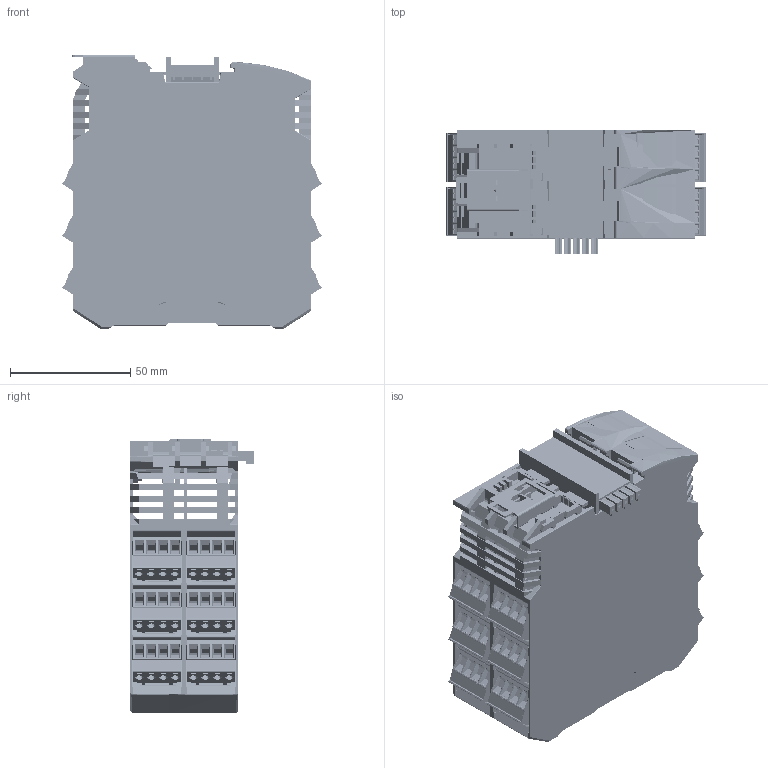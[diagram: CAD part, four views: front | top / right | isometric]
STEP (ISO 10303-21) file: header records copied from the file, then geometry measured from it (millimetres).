
FILE_DESCRIPTION(('STEP AP214'), '1');
FILE_NAME('NLS-32DO-P-Ethernet-2P-PoE â ñòåïêóóâóóóâ', '2026-07-21T10:45:56', (''), (''), 'C3D Converter', 'C3D Toolkit', '');
FILE_SCHEMA(('AUTOMOTIVE_DESIGN { 1 0 10303 214 3 1 1}'));
Length unit declared in the file: millimetre
Bounding box: 107.97 x 51.81 x 114.2 mm (x, y, z)
Topology: 65 solids, 86 shells, 21119 faces, 61004 edges, 40394 vertices
Faces by surface type: plane 14329, extrusion 3516, cylinder 2639, torus 254, cone 228, sphere 75, bspline 60, revolution 18
Full cylindrical faces by diameter (mm): 0.8 x20, 1.4 x48, 1.5 x23, 1.6 x21, 2 x36, 2.8 x1, 3 x16, 3.1 x48, 4 x96, 4.5 x1
Entity records: 928783 total; most frequent: CARTESIAN_POINT 219837, ORIENTED_EDGE 120535, DIRECTION 95232, EDGE_CURVE 60280, VECTOR 48202, LINE 44686, VERTEX_POINT 40690, AXIS2_PLACEMENT_3D 23506
